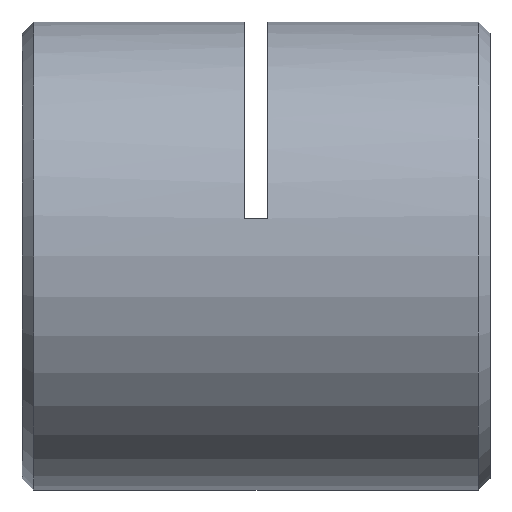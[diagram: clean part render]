
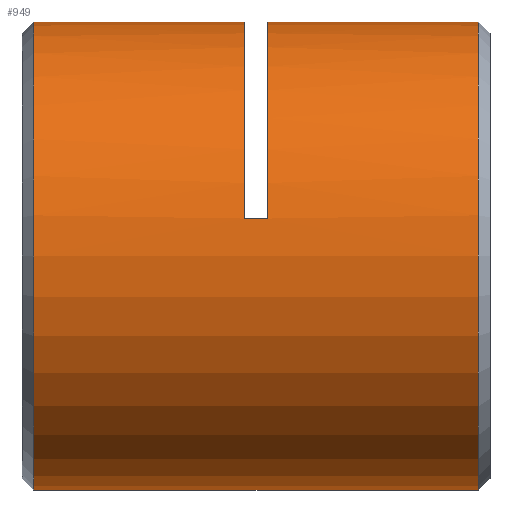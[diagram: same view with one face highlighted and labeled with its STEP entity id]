
A CAD part, left-side view. The second image highlights one B-rep face of the part: STEP entity #949.
In plain terms, the highlighted cylindrical face has radius 8 mm (diameter 16 mm), a partial arc.
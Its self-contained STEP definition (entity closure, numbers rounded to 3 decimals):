
#50 = CIRCLE ( 'NONE', #2594, 8. ) ;
#121 = EDGE_CURVE ( 'NONE', #1206, #2504, #925, .T. ) ;
#131 = DIRECTION ( 'NONE',  ( 0., 0., 1. ) ) ;
#209 = LINE ( 'NONE', #369, #692 ) ;
#285 = EDGE_CURVE ( 'NONE', #355, #743, #209, .T. ) ;
#355 = VERTEX_POINT ( 'NONE', #1644 ) ;
#369 = CARTESIAN_POINT ( 'NONE',  ( 0., 0.25, 8. ) ) ;
#427 = DIRECTION ( 'NONE',  ( 0., 1., 0. ) ) ;
#474 = ORIENTED_EDGE ( 'NONE', *, *, #3845, .F. ) ;
#508 = DIRECTION ( 'NONE',  ( 0., 0., -1. ) ) ;
#520 = AXIS2_PLACEMENT_3D ( 'NONE', #2563, #1948, #131 ) ;
#556 = DIRECTION ( 'NONE',  ( 0., 1., 0. ) ) ;
#582 = CARTESIAN_POINT ( 'NONE',  ( 0., 8.65, 0. ) ) ;
#599 = ORIENTED_EDGE ( 'NONE', *, *, #121, .F. ) ;
#637 = CYLINDRICAL_SURFACE ( 'NONE', #520, 8. ) ;
#691 = AXIS2_PLACEMENT_3D ( 'NONE', #3846, #1407, #508 ) ;
#692 = VECTOR ( 'NONE', #2757, 1000. ) ;
#743 = VERTEX_POINT ( 'NONE', #1863 ) ;
#753 = CARTESIAN_POINT ( 'NONE',  ( 0., 15.85, -8. ) ) ;
#762 = CIRCLE ( 'NONE', #1228, 8. ) ;
#764 = LINE ( 'NONE', #2862, #1291 ) ;
#784 = VERTEX_POINT ( 'NONE', #1567 ) ;
#925 = LINE ( 'NONE', #3753, #1778 ) ;
#949 = ADVANCED_FACE ( 'NONE', ( #1969 ), #637, .T. ) ;
#1021 = CIRCLE ( 'NONE', #691, 8. ) ;
#1133 = DIRECTION ( 'NONE',  ( 0., 1., 0. ) ) ;
#1167 = ORIENTED_EDGE ( 'NONE', *, *, #1333, .T. ) ;
#1206 = VERTEX_POINT ( 'NONE', #2290 ) ;
#1228 = AXIS2_PLACEMENT_3D ( 'NONE', #1733, #3567, #3876 ) ;
#1291 = VECTOR ( 'NONE', #1616, 1000. ) ;
#1333 = EDGE_CURVE ( 'NONE', #784, #2504, #1021, .T. ) ;
#1407 = DIRECTION ( 'NONE',  ( 0., -1., 0. ) ) ;
#1467 = DIRECTION ( 'NONE',  ( 0., 0., 1. ) ) ;
#1567 = CARTESIAN_POINT ( 'NONE',  ( 0., 15.85, 8. ) ) ;
#1616 = DIRECTION ( 'NONE',  ( 0., 1., 0. ) ) ;
#1634 = ORIENTED_EDGE ( 'NONE', *, *, #3944, .T. ) ;
#1644 = CARTESIAN_POINT ( 'NONE',  ( 0., 0.65, 8. ) ) ;
#1733 = CARTESIAN_POINT ( 'NONE',  ( 0., 7.85, 0. ) ) ;
#1778 = VECTOR ( 'NONE', #427, 1000. ) ;
#1816 = EDGE_LOOP ( 'NONE', ( #599, #2933, #1825, #474, #2156, #1634, #3439, #1167 ) ) ;
#1825 = ORIENTED_EDGE ( 'NONE', *, *, #285, .T. ) ;
#1840 = VERTEX_POINT ( 'NONE', #3339 ) ;
#1863 = CARTESIAN_POINT ( 'NONE',  ( 0., 7.85, 8. ) ) ;
#1948 = DIRECTION ( 'NONE',  ( 0., 1., 0. ) ) ;
#1969 = FACE_OUTER_BOUND ( 'NONE', #1816, .T. ) ;
#2098 = DIRECTION ( 'NONE',  ( 0., 1., 0. ) ) ;
#2118 = VERTEX_POINT ( 'NONE', #2236 ) ;
#2156 = ORIENTED_EDGE ( 'NONE', *, *, #3523, .T. ) ;
#2205 = LINE ( 'NONE', #2983, #3871 ) ;
#2236 = CARTESIAN_POINT ( 'NONE',  ( -7.897, 7.85, 1.28 ) ) ;
#2270 = AXIS2_PLACEMENT_3D ( 'NONE', #582, #2098, #2434 ) ;
#2290 = CARTESIAN_POINT ( 'NONE',  ( 0., 0.65, -8. ) ) ;
#2434 = DIRECTION ( 'NONE',  ( 0., 0., 1. ) ) ;
#2504 = VERTEX_POINT ( 'NONE', #753 ) ;
#2530 = CIRCLE ( 'NONE', #2270, 8. ) ;
#2563 = CARTESIAN_POINT ( 'NONE',  ( 0., 0.25, 0. ) ) ;
#2591 = EDGE_CURVE ( 'NONE', #2848, #784, #2205, .T. ) ;
#2594 = AXIS2_PLACEMENT_3D ( 'NONE', #3291, #1133, #1467 ) ;
#2757 = DIRECTION ( 'NONE',  ( 0., 1., 0. ) ) ;
#2848 = VERTEX_POINT ( 'NONE', #2940 ) ;
#2862 = CARTESIAN_POINT ( 'NONE',  ( -7.897, 8.25, 1.28 ) ) ;
#2933 = ORIENTED_EDGE ( 'NONE', *, *, #3840, .T. ) ;
#2940 = CARTESIAN_POINT ( 'NONE',  ( 0., 8.65, 8. ) ) ;
#2983 = CARTESIAN_POINT ( 'NONE',  ( 0., 0.25, 8. ) ) ;
#3291 = CARTESIAN_POINT ( 'NONE',  ( 0., 0.65, 0. ) ) ;
#3339 = CARTESIAN_POINT ( 'NONE',  ( -7.897, 8.65, 1.28 ) ) ;
#3439 = ORIENTED_EDGE ( 'NONE', *, *, #2591, .T. ) ;
#3523 = EDGE_CURVE ( 'NONE', #2118, #1840, #764, .T. ) ;
#3567 = DIRECTION ( 'NONE',  ( 0., 1., 0. ) ) ;
#3753 = CARTESIAN_POINT ( 'NONE',  ( 0., 0.25, -8. ) ) ;
#3840 = EDGE_CURVE ( 'NONE', #1206, #355, #50, .T. ) ;
#3845 = EDGE_CURVE ( 'NONE', #2118, #743, #762, .T. ) ;
#3846 = CARTESIAN_POINT ( 'NONE',  ( 0., 15.85, 0. ) ) ;
#3871 = VECTOR ( 'NONE', #556, 1000. ) ;
#3876 = DIRECTION ( 'NONE',  ( 0., 0., 1. ) ) ;
#3944 = EDGE_CURVE ( 'NONE', #1840, #2848, #2530, .T. ) ;
